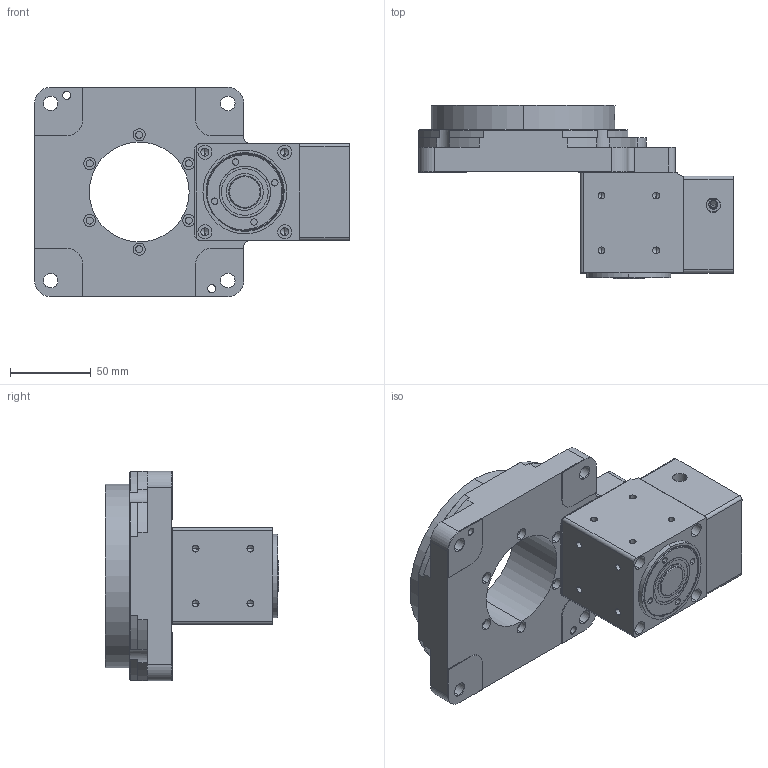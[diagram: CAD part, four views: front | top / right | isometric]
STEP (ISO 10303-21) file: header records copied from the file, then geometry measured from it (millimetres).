
FILE_DESCRIPTION (( 'STEP AP203' ), '1' );
FILE_NAME ('NTFA130-10K-11-50-70.STEP', '2024-06-25T08:58:45', ( 'Windows User' ), ( 'P R C' ), 'SwSTEP 2.0', 'SolidWorks 2016', '' );
FILE_SCHEMA (( 'CONFIG_CONTROL_DESIGN' ));
Length unit declared in the file: millimetre
Products named in the file (20): 20-32-5蚐猾-A; 00_3; NONE-6019; NTFA130-10K-11-50-70; 000_2; NONE-9955; 6003_ROLLING_BEARINGS_6003_GB_2; NONE-9995; 1000; NTFA130-10K400W_14000_ASM; ZH060000_ASM; 00; 000_ASM; 00_2; 130-1000; 000; NONE-2478; 眻噤14蛌眻噤11粣杶; 30204_ROLLING_BEARINGS_30204_GB; NONE-2610
Assembly tree (22 placements, depth 4):
  NTFA130-10K-11-50-70
    NTFA130-10K400W_14000_ASM
      NONE-2478
      NONE-2610
      NONE-6019
      NONE-9955
      NONE-9995
    000_ASM
      ZH060000_ASM
        00  x2
        00_2
        000
        30204_ROLLING_BEARINGS_30204_GB  x2
        00_3
        000_2
        6003_ROLLING_BEARINGS_6003_GB_2
        1000
    130-1000
    眻噤14蛌眻噤11粣杶
    20-32-5蚐猾-A  x2
Bounding box: 195.56 x 107.5 x 130 mm (x, y, z)
Volume: 707128.8 mm3; surface area: 190262.6 mm2
Topology: 32 solids, 32 shells, 1728 faces, 5135 edges, 3327 vertices
Faces by surface type: plane 735, cylinder 402, torus 199, cone 194, bspline 164, sphere 34
Entity records: 79320 total; most frequent: CARTESIAN_POINT 38623, ORIENTED_EDGE 8550, DIRECTION 7345, EDGE_CURVE 4275, VERTEX_POINT 2817, AXIS2_PLACEMENT_3D 2685, VECTOR 1975, LINE 1975
